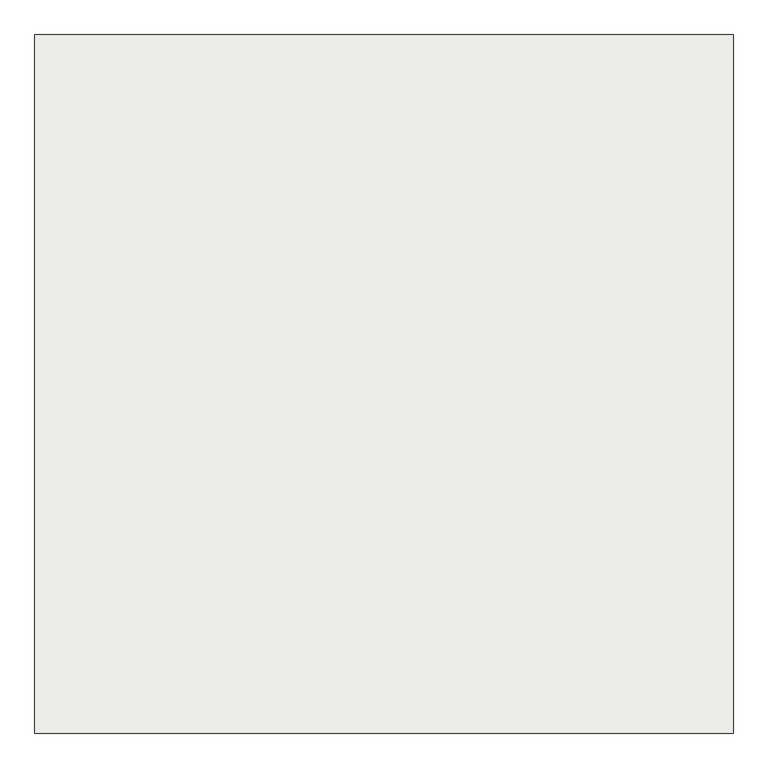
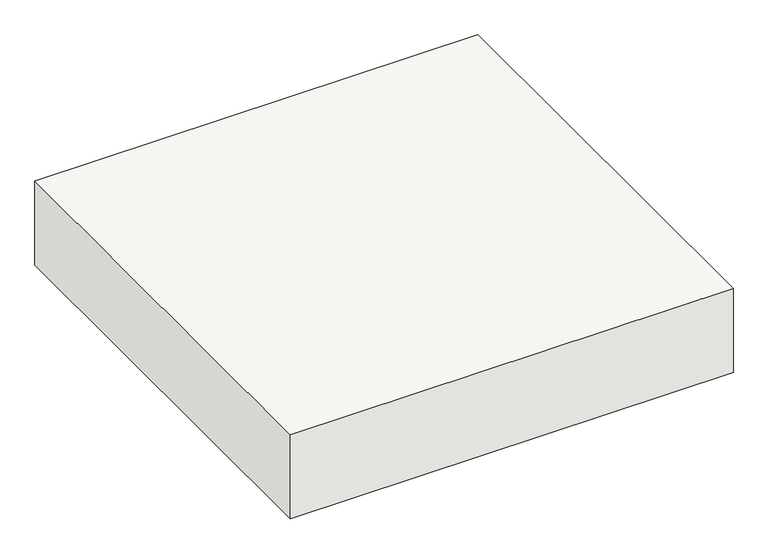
"""IFC4 building model written with IfcOpenShell, lengths in millimetres: slab geometry, Foundation Slab:16_SFO_funderingsplaat_ihwg_beton_C30/37:68150 : Foundation Slab:16_SFO_funderingsplaat_ihwg_beton_C30/37:68150."""

from ifc_helpers import new_model, si_unit, frame, origin, place, context, project, spatial, polyline, outline, extrude, source, transform, mapped, element, save


def slab_122715aa(model_context):
    return source(origin(), model_context, "Body", "SweptSolid", [
        extrude(outline(polyline([(29693.347385, -3915.0), (31193.347385, -3915.0), (31193.347385, -5415.0), (29693.347385, -5415.0), (29693.347385, -3915.0)])), frame((0.0, 0.0, -300.0), z_axis=(0.0, 0.0, 1.0), x_axis=(1.0, 0.0, 0.0)), (0.0, 0.0, 1.0), 300.0),
    ])


if __name__ == "__main__":
    model = new_model("IFC4")
    model_context = context("Model", 3, world=origin())
    ifc_project = project(units=[si_unit("LENGTHUNIT", "METRE", prefix="MILLI")], contexts=[model_context])
    site = spatial("IfcSite", under=ifc_project)
    building = spatial("IfcBuilding", under=site)
    placement = place(None, origin())
    slab_shape = slab_122715aa(model_context)
    element("IfcSlab", 1, ObjectType="Foundation Slab:16_SFO_funderingsplaat_ihwg_beton_C30/37:68150 : Foundation Slab:16_SFO_funderingsplaat_ihwg_beton_C30/37:68150", at=placement, inside=building, context=model_context, shape_type="MappedRepresentation", body=[
        mapped(slab_shape, transform((0.0, 0.0, 0.0), x_axis=(1.0, 0.0, 0.0), y_axis=(0.0, 1.0, 0.0), z_axis=(0.0, 0.0, 1.0))),
    ])
    save(model, "model.ifc")
